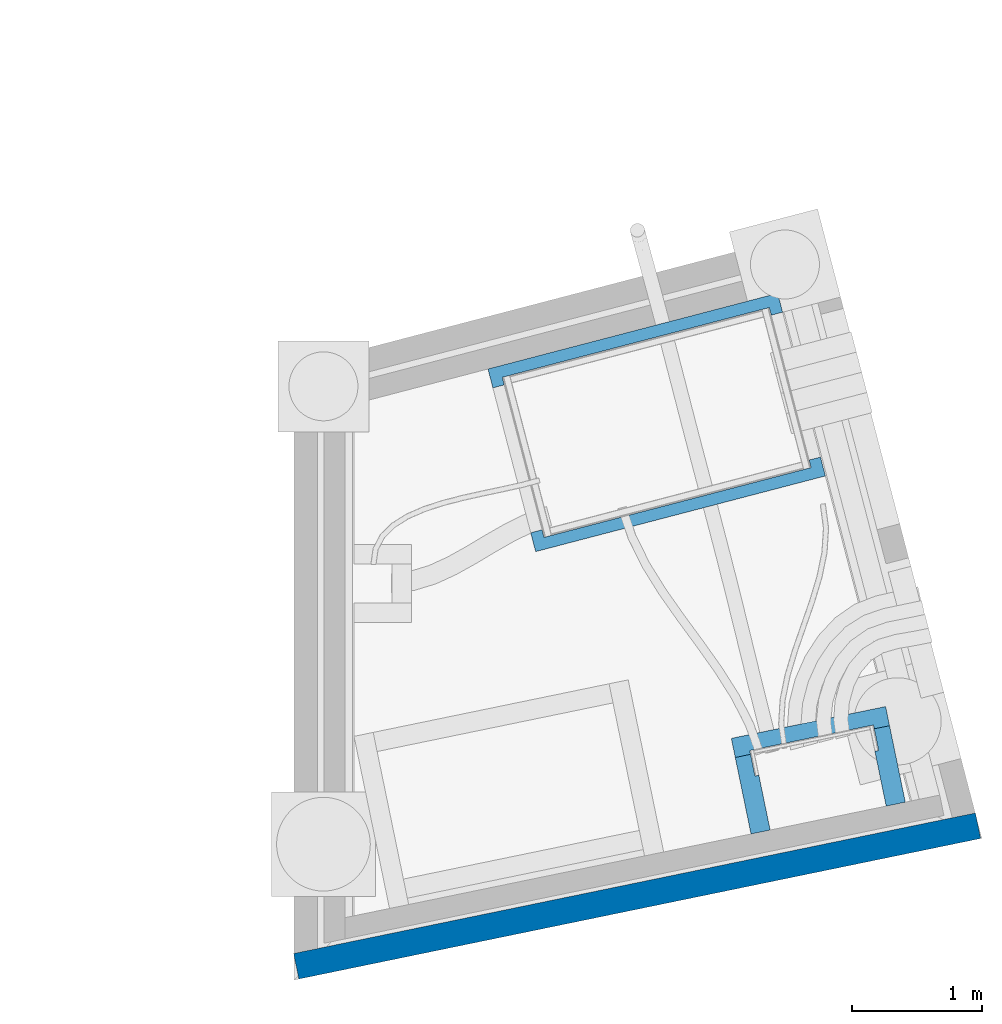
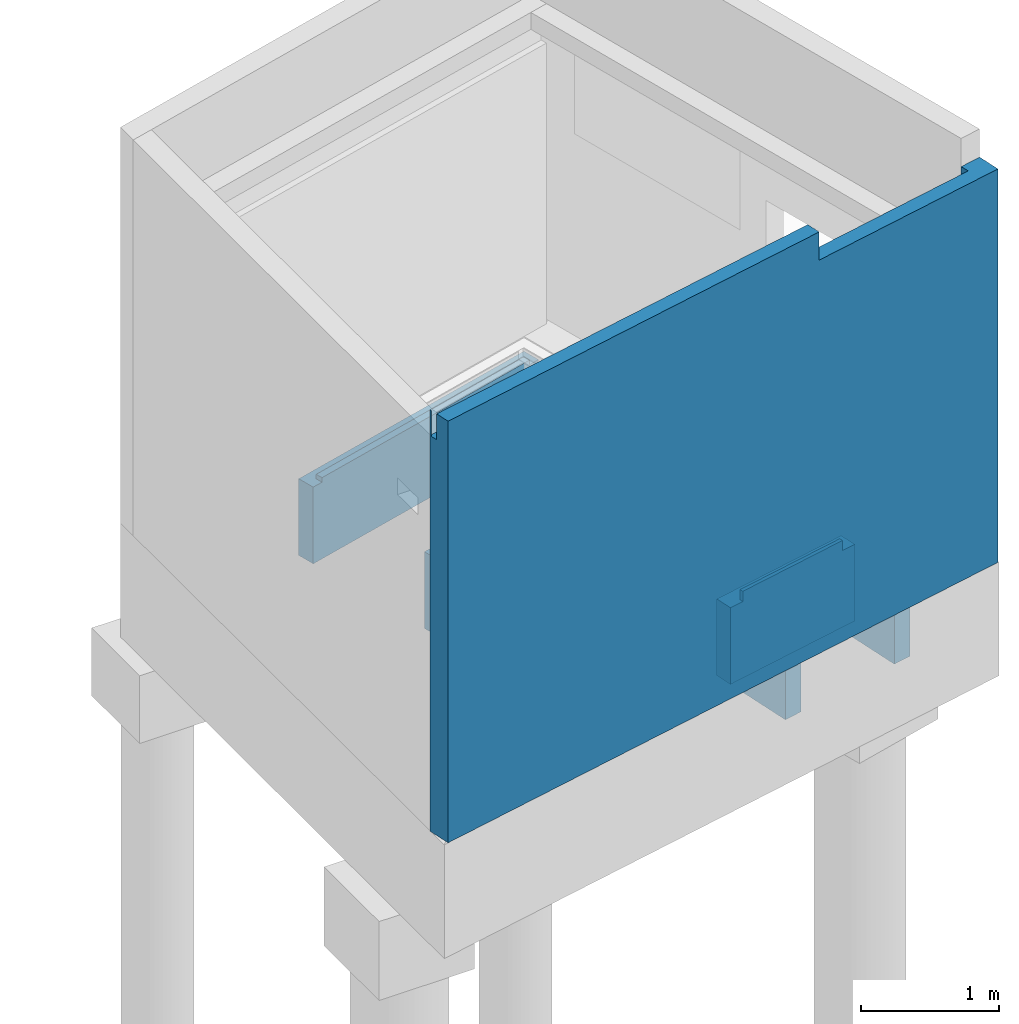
# One storey, part 16 of 29: 6 walls.
"""IFC2X3 building model written with IfcOpenShell, lengths in centimetres."""

import ifcopenshell
import ifcopenshell.guid

model = None  # the IFC model being written
_history = None  # IfcOwnerHistory: only IFC2X3 demands one
_inside = {}  # id of a spatial element -> (the spatial element, [elements in it])
_under = {}  # id of a project, library or spatial element -> (it, [spatial elements below it])
_declared = {}  # id of a project -> (the project, [libraries it declares])
_typed = {}  # id of a type object -> (the type object, [elements of that type])
_made_of = {}  # id of a material, layer set ... -> (it, [elements and type objects made of it])


def new_model(schema):
    """Start an empty IFC model of exactly this schema.

    Asked for "IFC4X3", IfcOpenShell would pick the latest addendum, in which some entities
    have other attributes; the version numbers below select the first issue.
    IFC2X3 requires an IfcOwnerHistory on every rooted entity: one is made here for all.
    """
    global model, _history
    if schema == "IFC4X3":
        model = ifcopenshell.file(schema_version=(4, 3, 0, 0))
    else:
        model = ifcopenshell.file(schema=schema)
    _inside.clear()
    _under.clear()
    _declared.clear()
    _typed.clear()
    _made_of.clear()
    _history = None
    if model.schema == "IFC2X3":
        org = make("IfcOrganization", Name="unknown")
        user = make(
            "IfcPersonAndOrganization",
            ThePerson=make("IfcPerson", FamilyName="unknown"),
            TheOrganization=org,
        )
        app = make(
            "IfcApplication",
            ApplicationDeveloper=org,
            Version="unknown",
            ApplicationFullName="unknown",
            ApplicationIdentifier="unknown",
        )
        _history = make(
            "IfcOwnerHistory",
            OwningUser=user,
            OwningApplication=app,
            ChangeAction="ADDED",
            CreationDate=0,
        )
    return model


def make(cls, **values):
    """One entity of the class cls with the attributes given. An attribute that is None is left unset."""
    return model.create_entity(
        cls, **{name: value for name, value in values.items() if value is not None}
    )


def entity(cls, *values):
    """Any entity or typed value of the class cls, its attributes in the order of the schema. None: left unset."""
    e = model.create_entity(cls)
    for i, value in enumerate(values):
        if value is not None:
            e[i] = value
    return e


def rooted(cls, **values):
    """An entity with a GlobalId (a new one), such as an element, a storey or a relation."""
    return make(cls, GlobalId=ifcopenshell.guid.new(), OwnerHistory=_history, **values)


def si_unit(unit_type, name, prefix=None):
    """IfcSIUnit, for example si_unit("LENGTHUNIT", "METRE", prefix="MILLI")."""
    return make("IfcSIUnit", UnitType=unit_type, Prefix=prefix, Name=name)


def converted_unit(unit_type, name, factor, base, dimensions=None, offset=None):
    """IfcConversionBasedUnit, such as the inch: factor (a typed value) times the base unit."""
    return make(
        "IfcConversionBasedUnit"
        if offset is None
        else "IfcConversionBasedUnitWithOffset",
        ConversionOffset=offset,
        Dimensions=None
        if dimensions is None
        else entity("IfcDimensionalExponents", *dimensions),
        UnitType=unit_type,
        Name=name,
        ConversionFactor=make(
            "IfcMeasureWithUnit", ValueComponent=factor, UnitComponent=base
        ),
    )


def derived_unit(unit_type, elements):
    """IfcDerivedUnit: a product of units, each with its exponent."""
    return make(
        "IfcDerivedUnit",
        Elements=[
            make("IfcDerivedUnitElement", Unit=unit, Exponent=power)
            for unit, power in elements
        ],
        UnitType=unit_type,
    )


def assignment(units):
    """IfcUnitAssignment: the units of a project."""
    return None if units is None else make("IfcUnitAssignment", Units=units)


def point(xyz):
    """IfcCartesianPoint."""
    return None if xyz is None else make("IfcCartesianPoint", Coordinates=xyz)


def direction(xyz):
    """IfcDirection."""
    return None if xyz is None else make("IfcDirection", DirectionRatios=xyz)


def frame(location, z_axis=None, x_axis=None):
    """IfcAxis2Placement3D, a coordinate frame: its origin and axes. An axis left out is left unset."""
    return make(
        "IfcAxis2Placement3D",
        Location=point(location),
        Axis=direction(z_axis),
        RefDirection=direction(x_axis),
    )


def origin():
    """The frame at (0, 0, 0) with its axes left unset."""
    return frame((0.0, 0.0, 0.0))


def place(relative_to, where):
    """IfcLocalPlacement: puts the frame where relative to a parent placement (None: the world)."""
    return make(
        "IfcLocalPlacement", PlacementRelTo=relative_to, RelativePlacement=where
    )


def context(
    kind, dimensions, precision=None, world=None, true_north=None, identifier=None
):
    """IfcGeometricRepresentationContext, for example the 3D "Model" context."""
    return make(
        "IfcGeometricRepresentationContext",
        ContextIdentifier=identifier,
        ContextType=kind,
        CoordinateSpaceDimension=dimensions,
        Precision=precision,
        WorldCoordinateSystem=world,
        TrueNorth=true_north,
    )


def subcontext(parent, identifier, kind, view, scale=None):
    """IfcGeometricRepresentationSubContext, for example "Body" below "Model"."""
    return make(
        "IfcGeometricRepresentationSubContext",
        ContextIdentifier=identifier,
        ContextType=kind,
        ParentContext=parent,
        TargetScale=scale,
        TargetView=view,
    )


def project(units=None, contexts=None):
    """IfcProject with its units and contexts."""
    return rooted(
        "IfcProject",
        Name="project",
        RepresentationContexts=contexts,
        UnitsInContext=assignment(units),
    )


def spatial(cls, under=None, at=None, **own):
    """A site, building, storey or space (cls), placed at a placement, below another one or the project."""
    s = rooted(cls, ObjectPlacement=at, **own)
    if under is not None:
        _under.setdefault(under.id(), (under, []))[1].append(s)
    return s


def faces_of(points, faces, orient=None, outer=None):
    """IfcFace entities. A face is a list of loops; a loop is a list of indices into points, from 0.

    orient and outer hold one flag for each loop. By default every Orientation is true, the
    first loop of a face is its IfcFaceOuterBound and the others are IfcFaceBound.
    """
    made = []
    for i, loops in enumerate(faces):
        bounds = []
        for j, loop in enumerate(loops):
            is_outer = j == 0 if outer is None else outer[i][j]
            bounds.append(
                make(
                    "IfcFaceOuterBound" if is_outer else "IfcFaceBound",
                    Bound=make("IfcPolyLoop", Polygon=[points[k] for k in loop]),
                    Orientation=True if orient is None else orient[i][j],
                )
            )
        made.append(make("IfcFace", Bounds=bounds))
    return made


def faceted_brep(points, faces, orient=None, outer=None, voids=None):
    """IfcFacetedBrep: a solid bounded by flat faces; with voids (closed shells), ...WithVoids."""
    shared = [point(p) for p in points]
    hull = make("IfcClosedShell", CfsFaces=faces_of(shared, faces, orient, outer))
    if voids is None:
        return make("IfcFacetedBrep", Outer=hull)
    return make(
        "IfcFacetedBrepWithVoids",
        Outer=hull,
        Voids=[
            make(cls, CfsFaces=faces_of(shared, fs, o, b)) for cls, fs, o, b in voids
        ],
    )


def shape(context_of_items, identifier, shape_type, items):
    """IfcShapeRepresentation: the items that make up one representation, for example the "Body"."""
    return make(
        "IfcShapeRepresentation",
        ContextOfItems=context_of_items,
        RepresentationIdentifier=identifier,
        RepresentationType=shape_type,
        Items=items,
    )


def material(Name=None, Category=None):
    """IfcMaterial."""
    return make("IfcMaterial", Name=Name, Category=Category)


def material_list(materials):
    """IfcMaterialList."""
    return make("IfcMaterialList", Materials=materials)


def layer(
    of_material, thickness, ventilated=None, Name=None, Category=None, Priority=None
):
    """IfcMaterialLayer: one layer of a wall or slab, of a material (None: an air gap)."""
    return make(
        "IfcMaterialLayer",
        Material=of_material,
        LayerThickness=thickness,
        IsVentilated=ventilated,
        Name=Name,
        Category=Category,
        Priority=Priority,
    )


def layer_set(layers, Name=None):
    """IfcMaterialLayerSet."""
    return make("IfcMaterialLayerSet", MaterialLayers=layers, LayerSetName=Name)


def made_of(thing, what):
    """Note that an element or type object is made of a material, layer set ...; save() writes the relation."""
    if what is not None:
        _made_of.setdefault(what.id(), (what, []))[1].append(thing)
    return thing


def type_object(cls, material=None, **own):
    """A type object (cls), such as IfcWallType, which elements share."""
    return made_of(rooted(cls, **own), material)


def element(
    cls,
    number,
    at=None,
    inside=None,
    cuts=None,
    type_object=None,
    material=None,
    context=None,
    identifier="Body",
    shape_type=None,
    held_by="IfcProductDefinitionShape",
    body=None,
    shapes=None,
    **own,
):
    """One element of the class cls, such as IfcWall. Its Tag is "e" and its number.

    at: its placement. inside: the storey or other place that contains it. cuts: it is an
    opening in that element (IfcRelVoidsElement). A single representation is given by context,
    identifier, shape_type and body (its items); several are given by shapes. held_by: the class
    of the entity that holds the representations. save() writes the other relations.
    """
    e = rooted(cls, Tag="e%d" % number, ObjectPlacement=at, **own)
    if body is not None:
        shapes = [shape(context, identifier, shape_type, body)]
    if shapes is not None:
        e.Representation = make(held_by, Representations=shapes)
    if inside is not None:
        _inside.setdefault(inside.id(), (inside, []))[1].append(e)
    if cuts is not None:
        rooted(
            "IfcRelVoidsElement", RelatingBuildingElement=cuts, RelatedOpeningElement=e
        )
    if type_object is not None:
        _typed.setdefault(type_object.id(), (type_object, []))[1].append(e)
    return made_of(e, material)


def aggregate(whole, parts):
    """IfcRelAggregates: a whole, such as a stair, and the parts it consists of."""
    return rooted("IfcRelAggregates", RelatingObject=whole, RelatedObjects=parts)


def save(model, path):
    """Write the relations noted so far, then the file.

    IfcRelAggregates (storeys below a building ...), IfcRelContainedInSpatialStructure (elements
    in a storey), IfcRelDefinesByType, IfcRelAssociatesMaterial and IfcRelDeclares: one each for
    every whole, place, type object, material and project.
    """
    for whole, parts in _under.values():
        aggregate(whole, parts)
    for where, things in _inside.values():
        rooted(
            "IfcRelContainedInSpatialStructure",
            RelatedElements=things,
            RelatingStructure=where,
        )
    for kind, things in _typed.values():
        rooted("IfcRelDefinesByType", RelatedObjects=things, RelatingType=kind)
    for what, things in _made_of.values():
        rooted("IfcRelAssociatesMaterial", RelatedObjects=things, RelatingMaterial=what)
    for by, libraries in _declared.values():
        rooted("IfcRelDeclares", RelatingContext=by, RelatedDefinitions=libraries)
    model.write(path)


model = new_model("IFC2X3")

# Units and contexts
model_context = context("Model", 3, precision=0.001, world=origin(), true_north=direction((6.12303176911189e-17, 1.0)))
body_context = subcontext(model_context, "Body", "Model", "MODEL_VIEW")
ifc_project = project(units=[si_unit("LENGTHUNIT", "METRE", prefix="CENTI"), si_unit("AREAUNIT", "SQUARE_METRE"), si_unit("VOLUMEUNIT", "CUBIC_METRE"), converted_unit("PLANEANGLEUNIT", "DEGREE", entity("IfcRatioMeasure", 0.0174532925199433), si_unit("PLANEANGLEUNIT", "RADIAN"), dimensions=[0, 0, 0, 0, 0, 0, 0]), si_unit("MASSUNIT", "GRAM", prefix="KILO"), derived_unit("MASSDENSITYUNIT", [(si_unit("MASSUNIT", "GRAM", prefix="KILO"), 1), (si_unit("LENGTHUNIT", "METRE"), -3)]), si_unit("TIMEUNIT", "SECOND"), si_unit("FREQUENCYUNIT", "HERTZ"), si_unit("THERMODYNAMICTEMPERATUREUNIT", "DEGREE_CELSIUS"), derived_unit("THERMALTRANSMITTANCEUNIT", [(si_unit("MASSUNIT", "GRAM", prefix="KILO"), 1), (si_unit("THERMODYNAMICTEMPERATUREUNIT", "KELVIN"), -1), (si_unit("TIMEUNIT", "SECOND"), -3)]), derived_unit("VOLUMETRICFLOWRATEUNIT", [(si_unit("LENGTHUNIT", "METRE"), 3), (si_unit("TIMEUNIT", "SECOND"), -1)]), si_unit("ELECTRICCURRENTUNIT", "AMPERE"), si_unit("ELECTRICVOLTAGEUNIT", "VOLT"), si_unit("POWERUNIT", "WATT"), si_unit("FORCEUNIT", "NEWTON"), si_unit("ILLUMINANCEUNIT", "LUX"), si_unit("LUMINOUSFLUXUNIT", "LUMEN"), si_unit("LUMINOUSINTENSITYUNIT", "CANDELA"), derived_unit("USERDEFINED", [(si_unit("MASSUNIT", "GRAM", prefix="KILO"), -1), (si_unit("LENGTHUNIT", "METRE"), -2), (si_unit("TIMEUNIT", "SECOND"), 3), (si_unit("LUMINOUSFLUXUNIT", "LUMEN"), 1)]), derived_unit("LINEARVELOCITYUNIT", [(si_unit("LENGTHUNIT", "METRE"), 1), (si_unit("TIMEUNIT", "SECOND"), -1)]), si_unit("PRESSUREUNIT", "PASCAL"), derived_unit("USERDEFINED", [(si_unit("LENGTHUNIT", "METRE"), -2), (si_unit("MASSUNIT", "GRAM", prefix="KILO"), 1), (si_unit("TIMEUNIT", "SECOND"), -2)])], contexts=[model_context])

# Site, building, storey
site_placement = place(None, origin())
site = spatial("IfcSite", under=ifc_project, at=site_placement, Name="Default", CompositionType="ELEMENT")
building_placement = place(site_placement, origin())
building = spatial("IfcBuilding", under=site, at=building_placement, Name="CAGE 03", CompositionType="ELEMENT")
storey_placement = place(building_placement, frame((0.0, 0.0, -34.0)))
storey = spatial("IfcBuildingStorey", under=building, at=storey_placement, Name="+3.66", CompositionType="ELEMENT", Elevation=-34.0000000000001)

# Walls
ifc_material_1 = material(Name="Stépoc")
ifc_material_2 = material(Name="Béton, C25/30")
ifc_material_list = material_list([ifc_material_1, ifc_material_2, ifc_material_1])
wall_type_1 = type_object("IfcWallType", Name="Mur de base:stepoc 20", PredefinedType="NOTDEFINED")
wall_1_placement = place(storey_placement, frame((11202.9807095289, 3373.47199893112, 0.0), z_axis=(0.0, 0.0, 1.0), x_axis=(0.979414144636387, 0.201861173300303, 0.0)))
element("IfcWall", 1, at=wall_1_placement, inside=storey, type_object=wall_type_1, material=ifc_material_list, Name="Mur de base:stepoc 20", ObjectType="Mur de base:stepoc 20", context=body_context, shape_type="Brep", body=[
    faceted_brep([(0.0, -10.0, 0.0), (534.693821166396, -10.0, 0.0), (534.693821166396, -10.0, 349.0), (360.926718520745, -10.0, 349.0), (360.874480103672, -10.0, 349.0), (360.874480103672, -10.0, 374.0), (0.0, -10.0, 374.0), (0.0, -10.0, 294.0), (534.693821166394, 10.0, 0.0), (534.589344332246, 10.0, 0.0), (516.564801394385, 10.0, 0.0), (18.7905417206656, 10.0, 0.0), (0.412208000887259, 10.0, 0.0), (0.0, 10.0, 0.0), (0.0, 10.0, 294.0), (0.0, 10.0, 374.0), (0.412208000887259, 10.0, 374.0), (0.412208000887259, 10.0, 351.0), (18.7905417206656, 10.0, 351.0), (360.874480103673, 10.0, 351.0), (360.874480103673, 10.0, 349.0), (369.364367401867, 10.0, 349.0), (369.364367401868, 10.0, 329.0), (516.564801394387, 10.0, 329.0), (516.564801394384, 10.0, 349.0), (534.693821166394, 10.0, 349.0), (0.0, 8.0, 351.0), (0.0, 2.49999999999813, 351.0), (360.874480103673, 2.49999999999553, 351.0), (0.0, 2.4999999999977, 374.0), (360.874480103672, 2.49999999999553, 374.0), (369.756155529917, 2.49999999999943, 329.0), (516.95658952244, 2.50000000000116, 329.0), (516.95658952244, 2.50000000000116, 349.0), (369.756155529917, 2.49999999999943, 349.0), (0.0, 8.0, 374.0), (534.693821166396, 8.0, 349.0)], [[[0, 1, 2, 3, 4, 5, 6, 7]], [[8, 9, 10, 11, 12, 13, 14, 15, 16, 17, 18, 19, 20, 21, 22, 23, 24, 25]], [[19, 18, 17, 26, 27, 28]], [[29, 30, 28, 27]], [[31, 32, 23, 22]], [[32, 33, 24, 23]], [[32, 31, 34, 33]], [[34, 31, 22, 21]], [[17, 16, 35, 26]], [[1, 0, 13, 12, 11, 10, 9, 8]], [[2, 1, 8, 25, 36]], [[6, 5, 30, 29]], [[0, 7, 6, 29, 27, 26, 35, 15, 14, 13]], [[4, 3, 2, 36, 25, 24, 33, 34, 21, 20]], [[5, 4, 20, 19, 28, 30]], [[16, 15, 35]]]),
])
ifc_layer = layer(ifc_material_2, 15.0)
ifc_layer_set = layer_set([ifc_layer], Name="Mur de base:Voile BA 15")
wall_type_2 = type_object("IfcWallType", Name="Mur de base:Voile BA 15", PredefinedType="STANDARD", material=ifc_layer_set)
wall_2_placement = place(storey_placement, frame((11352.1137419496, 3824.99002815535, -80.0), z_axis=(0.0, 0.0, 1.0), x_axis=(0.967549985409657, 0.252679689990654, 0.0)))
element("IfcWall", 2, at=wall_2_placement, inside=storey, type_object=wall_type_2, Name="Mur de base:Voile BA 15", ObjectType="Mur de base:Voile BA 15", context=body_context, shape_type="Brep", body=[
    faceted_brep([(0.0, -7.49999999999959, 0.0), (15.0, -7.50000000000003, 0.0), (215.0, -7.49999999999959, 0.0), (230.0, -7.49999999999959, 0.0), (230.0, -7.49999999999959, 68.0), (221.0, -7.49999999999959, 68.0), (221.0, -7.49999999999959, 72.0), (215.0, -7.49999999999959, 72.0), (15.0, -7.50000000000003, 72.0), (9.0, -7.49999999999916, 72.0), (9.0, -7.49999999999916, 68.0), (0.0, -7.49999999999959, 68.0), (230.0, 7.50000000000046, 0.0), (0.0, 7.50000000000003, 0.0), (0.0, 7.50000000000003, 68.0), (230.0, 7.50000000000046, 68.0), (221.0, -1.49999999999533, 72.0), (9.0, -1.49999999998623, 72.0), (9.0, -1.49999999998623, 68.0), (221.0, -1.49999999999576, 68.0)], [[[0, 1, 2, 3, 4, 5, 6, 7, 8, 9, 10, 11]], [[12, 13, 14, 15]], [[3, 2, 1, 0, 13, 12]], [[9, 8, 7, 6, 16, 17]], [[3, 12, 15, 4]], [[13, 0, 11, 14]], [[18, 19, 5, 4, 15, 14, 11, 10]], [[18, 10, 9, 17]], [[5, 19, 16, 6]], [[19, 18, 17, 16]]]),
])
wall_3_placement = place(storey_placement, frame((11384.9621016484, 3699.20853005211, -80.0), z_axis=(0.0, 0.0, 1.0), x_axis=(0.967549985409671, 0.252679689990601, 0.0)))
element("IfcWall", 3, at=wall_3_placement, inside=storey, type_object=wall_type_2, Name="Mur de base:Voile BA 15", ObjectType="Mur de base:Voile BA 15", context=body_context, shape_type="Brep", body=[
    faceted_brep([(0.0, -7.49999999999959, 0.0), (230.0, -7.50000000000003, 0.0), (230.0, -7.50000000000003, 68.0), (0.0, -7.49999999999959, 68.0), (230.0, 7.49999999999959, 0.0), (215.0, 7.50000000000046, 0.0), (15.0, 7.49999999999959, 0.0), (0.0, 7.50000000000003, 0.0), (0.0, 7.50000000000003, 68.0), (9.0, 7.50000000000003, 68.0), (9.0, 7.50000000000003, 72.0), (15.0, 7.49999999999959, 72.0), (215.0, 7.50000000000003, 72.0), (221.0, 7.50000000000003, 72.0), (221.0, 7.50000000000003, 68.0), (230.0, 7.49999999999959, 68.0), (9.0, 1.49999999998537, 72.0), (221.0, 1.50000000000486, 72.0), (221.0, 1.50000000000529, 68.0), (9.0, 1.49999999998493, 68.0)], [[[0, 1, 2, 3]], [[4, 5, 6, 7, 8, 9, 10, 11, 12, 13, 14, 15]], [[1, 0, 7, 6, 5, 4]], [[13, 12, 11, 10, 16, 17]], [[1, 4, 15, 2]], [[7, 0, 3, 8]], [[18, 19, 9, 8, 3, 2, 15, 14]], [[9, 19, 16, 10]], [[19, 18, 17, 16]], [[18, 14, 13, 17]]]),
])
wall_4_placement = place(storey_placement, frame((11538.6525536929, 3541.18359795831, -80.0), z_axis=(0.0, 0.0, 1.0), x_axis=(0.979414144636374, 0.201861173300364, 0.0)))
element("IfcWall", 4, at=wall_4_placement, inside=storey, type_object=wall_type_2, Name="Mur de base:Voile BA 15", ObjectType="Mur de base:Voile BA 15", context=body_context, shape_type="Brep", body=[
    faceted_brep([(0.0, -7.50000000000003, 0.0), (15.0, -7.50000000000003, 0.0), (106.0, -7.50000000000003, 0.0), (121.0, -7.50000000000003, 0.0), (121.0, -7.50000000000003, 68.0), (109.0, -7.50000000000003, 68.0), (109.0, -7.50000000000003, 77.0), (106.0, -7.50000000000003, 77.0), (15.0, -7.50000000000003, 77.0), (12.0, -7.50000000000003, 77.0), (12.0, -7.50000000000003, 68.0), (0.0, -7.50000000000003, 68.0), (121.0, 7.50000000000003, 0.0), (0.0, 7.50000000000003, 0.0), (0.0, 7.50000000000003, 68.0), (121.0, 7.50000000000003, 68.0), (109.0, -4.49999999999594, 77.0), (12.0, -4.49999999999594, 77.0), (12.0, -4.49999999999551, 68.0), (109.0, -4.49999999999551, 68.0)], [[[0, 1, 2, 3, 4, 5, 6, 7, 8, 9, 10, 11]], [[12, 13, 14, 15]], [[3, 2, 1, 0, 13, 12]], [[9, 8, 7, 6, 16, 17]], [[3, 12, 15, 4]], [[13, 0, 11, 14]], [[18, 19, 5, 4, 15, 14, 11, 10]], [[5, 19, 16, 6]], [[19, 18, 17, 16]], [[18, 10, 9, 17]]]),
])
wall_5_placement = place(storey_placement, frame((11663.4416883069, 3497.98438636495, -80.0), z_axis=(0.0, 0.0, 1.0), x_axis=(-0.201861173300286, 0.97941414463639, 0.0)))
element("IfcWall", 5, at=wall_5_placement, inside=storey, type_object=wall_type_2, Name="Mur de base:Voile BA 15", ObjectType="Mur de base:Voile BA 15", context=body_context, shape_type="Brep", body=[
    faceted_brep([(0.0, -7.50000000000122, 0.0), (60.0, -7.50000000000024, 0.0), (60.0, -7.50000000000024, 68.0), (0.0, -7.50000000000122, 68.0), (60.0, 7.50000000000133, 0.0), (0.0, 7.50000000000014, 0.0), (0.0, 7.50000000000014, 68.0), (43.0, 7.49999999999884, 68.0), (43.0, 7.49999999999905, 77.0), (60.0, 7.50000000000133, 77.0), (43.0, 4.50000000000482, 77.0), (60.0, 4.50000000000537, 77.0), (60.0, 4.5000000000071, 68.0), (43.0, 4.50000000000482, 68.0)], [[[0, 1, 2, 3]], [[4, 5, 6, 7, 8, 9]], [[1, 0, 5, 4]], [[9, 8, 10, 11]], [[5, 0, 3, 6]], [[1, 4, 9, 11, 12, 2]], [[13, 7, 6, 3, 2, 12]], [[13, 12, 11, 10]], [[7, 13, 10, 8]]]),
])
wall_6_placement = place(storey_placement, frame((11559.6237889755, 3476.58710199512, -80.0), z_axis=(0.0, 0.0, 1.0), x_axis=(-0.201861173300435, 0.97941414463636, 0.0)))
element("IfcWall", 6, at=wall_6_placement, inside=storey, type_object=wall_type_2, Name="Mur de base:Voile BA 15", ObjectType="Mur de base:Voile BA 15", context=body_context, shape_type="Brep", body=[
    faceted_brep([(0.0, -7.499999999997, 0.0), (60.0, -7.49999999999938, 0.0), (60.0, -7.49999999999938, 77.0), (43.0, -7.49999999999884, 77.0), (43.0, -7.49999999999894, 68.0), (0.0, -7.4999999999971, 68.0), (60.0, 7.50000000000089, 0.0), (0.0, 7.50000000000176, 0.0), (0.0, 7.50000000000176, 68.0), (60.0, 7.50000000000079, 68.0), (60.0, -4.50000000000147, 77.0), (43.0, -4.50000000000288, 77.0), (60.0, -4.50000000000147, 68.0), (43.0, -4.50000000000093, 68.0)], [[[0, 1, 2, 3, 4, 5]], [[6, 7, 8, 9]], [[1, 0, 7, 6]], [[3, 2, 10, 11]], [[7, 0, 5, 8]], [[2, 1, 6, 9, 12, 10]], [[4, 13, 12, 9, 8, 5]], [[12, 13, 11, 10]], [[13, 4, 3, 11]]]),
])

save(model, "model.ifc")
